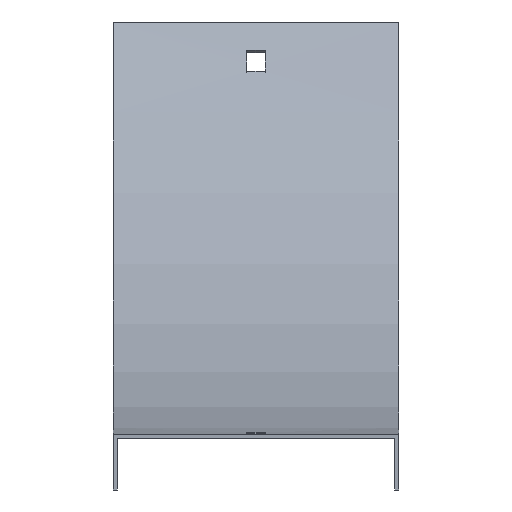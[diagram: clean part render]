
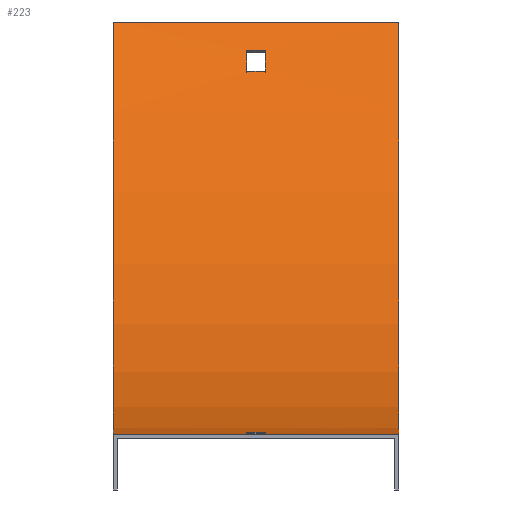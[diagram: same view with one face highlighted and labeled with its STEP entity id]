
A CAD part, top view. The second image highlights one B-rep face of the part: STEP entity #223.
In plain terms, the highlighted cylindrical face has radius 298.5 mm (diameter 597 mm), a partial arc.
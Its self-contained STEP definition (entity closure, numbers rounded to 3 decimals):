
#14 = CARTESIAN_POINT ( 'NONE',  ( 51.5, 149.25, -258.509 ) ) ;
#15 = CARTESIAN_POINT ( 'NONE',  ( 3.25, 138.978, -252.3 ) ) ;
#20 = EDGE_CURVE ( 'NONE', #143, #286, #440, .T. ) ;
#21 = LINE ( 'NONE', #217, #479 ) ;
#24 = CARTESIAN_POINT ( 'NONE',  ( -3.25, 298.5, 0. ) ) ;
#34 = VECTOR ( 'NONE', #267, 1000. ) ;
#36 = VERTEX_POINT ( 'NONE', #153 ) ;
#43 = EDGE_CURVE ( 'NONE', #36, #522, #274, .T. ) ;
#49 = DIRECTION ( 'NONE',  ( 0., 0., 1. ) ) ;
#56 = EDGE_CURVE ( 'NONE', #430, #363, #372, .T. ) ;
#59 = DIRECTION ( 'NONE',  ( 0., 0., 1. ) ) ;
#68 = CARTESIAN_POINT ( 'NONE',  ( 3.25, 298.5, 0. ) ) ;
#69 = CARTESIAN_POINT ( 'NONE',  ( 51.5, 0.241, -12. ) ) ;
#73 = LINE ( 'NONE', #468, #483 ) ;
#77 = VERTEX_POINT ( 'NONE', #311 ) ;
#80 = EDGE_CURVE ( 'NONE', #143, #477, #118, .T. ) ;
#88 = LINE ( 'NONE', #378, #228 ) ;
#96 = DIRECTION ( 'NONE',  ( -1., 0., 0. ) ) ;
#97 = CARTESIAN_POINT ( 'NONE',  ( 51.5, 149.25, -258.509 ) ) ;
#111 = ORIENTED_EDGE ( 'NONE', *, *, #383, .T. ) ;
#113 = DIRECTION ( 'NONE',  ( -1., 0., 0. ) ) ;
#114 = AXIS2_PLACEMENT_3D ( 'NONE', #439, #202, #207 ) ;
#118 = CIRCLE ( 'NONE', #525, 298.5 ) ;
#119 = DIRECTION ( 'NONE',  ( -1., 0., 0. ) ) ;
#121 = DIRECTION ( 'NONE',  ( 1., 0., 0. ) ) ;
#130 = AXIS2_PLACEMENT_3D ( 'NONE', #205, #353, #161 ) ;
#135 = AXIS2_PLACEMENT_3D ( 'NONE', #68, #226, #216 ) ;
#138 = ORIENTED_EDGE ( 'NONE', *, *, #142, .T. ) ;
#142 = EDGE_CURVE ( 'NONE', #484, #430, #303, .T. ) ;
#143 = VERTEX_POINT ( 'NONE', #14 ) ;
#153 = CARTESIAN_POINT ( 'NONE',  ( -3.25, 138.978, -252.3 ) ) ;
#161 = DIRECTION ( 'NONE',  ( 0., 1., 0. ) ) ;
#164 = CARTESIAN_POINT ( 'NONE',  ( -51.5, 149.25, -258.509 ) ) ;
#170 = CARTESIAN_POINT ( 'NONE',  ( 3.25, 0.74, -21. ) ) ;
#174 = DIRECTION ( 'NONE',  ( -1., 0., 0. ) ) ;
#178 = EDGE_CURVE ( 'NONE', #363, #393, #21, .T. ) ;
#191 = DIRECTION ( 'NONE',  ( -1., 0., 0. ) ) ;
#198 = ORIENTED_EDGE ( 'NONE', *, *, #277, .F. ) ;
#202 = DIRECTION ( 'NONE',  ( 1., 0., 0. ) ) ;
#205 = CARTESIAN_POINT ( 'NONE',  ( -3.25, 298.5, 0. ) ) ;
#207 = DIRECTION ( 'NONE',  ( 0., 0., 1. ) ) ;
#212 = CARTESIAN_POINT ( 'NONE',  ( 51.5, 298.5, 0. ) ) ;
#216 = DIRECTION ( 'NONE',  ( 0., 0., -1. ) ) ;
#217 = CARTESIAN_POINT ( 'NONE',  ( 51.5, 0.74, -21. ) ) ;
#223 = ADVANCED_FACE ( 'NONE', ( #289, #300, #341 ), #478, .F. ) ;
#226 = DIRECTION ( 'NONE',  ( -1., 0., 0. ) ) ;
#228 = VECTOR ( 'NONE', #330, 1000. ) ;
#240 = DIRECTION ( 'NONE',  ( -1., 0., 0. ) ) ;
#243 = ORIENTED_EDGE ( 'NONE', *, *, #422, .F. ) ;
#256 = ORIENTED_EDGE ( 'NONE', *, *, #565, .F. ) ;
#267 = DIRECTION ( 'NONE',  ( -1., 0., 0. ) ) ;
#272 = ORIENTED_EDGE ( 'NONE', *, *, #56, .T. ) ;
#274 = CIRCLE ( 'NONE', #130, 298.5 ) ;
#277 = EDGE_CURVE ( 'NONE', #561, #332, #310, .T. ) ;
#279 = ORIENTED_EDGE ( 'NONE', *, *, #486, .T. ) ;
#286 = VERTEX_POINT ( 'NONE', #164 ) ;
#288 = ORIENTED_EDGE ( 'NONE', *, *, #20, .T. ) ;
#289 = FACE_OUTER_BOUND ( 'NONE', #375, .T. ) ;
#293 = AXIS2_PLACEMENT_3D ( 'NONE', #24, #359, #59 ) ;
#300 = FACE_BOUND ( 'NONE', #513, .T. ) ;
#303 = LINE ( 'NONE', #69, #34 ) ;
#309 = ORIENTED_EDGE ( 'NONE', *, *, #399, .F. ) ;
#310 = CIRCLE ( 'NONE', #114, 298.5 ) ;
#311 = CARTESIAN_POINT ( 'NONE',  ( -51.5, 0., 0. ) ) ;
#323 = CARTESIAN_POINT ( 'NONE',  ( 51.5, 0., 0. ) ) ;
#325 = EDGE_LOOP ( 'NONE', ( #461, #243, #198, #256 ) ) ;
#330 = DIRECTION ( 'NONE',  ( 1., 0., 0. ) ) ;
#332 = VERTEX_POINT ( 'NONE', #15 ) ;
#336 = ORIENTED_EDGE ( 'NONE', *, *, #80, .F. ) ;
#341 = FACE_BOUND ( 'NONE', #325, .T. ) ;
#353 = DIRECTION ( 'NONE',  ( -1., 0., 0. ) ) ;
#359 = DIRECTION ( 'NONE',  ( 1., 0., 0. ) ) ;
#363 = VERTEX_POINT ( 'NONE', #549 ) ;
#372 = CIRCLE ( 'NONE', #293, 298.5 ) ;
#374 = CARTESIAN_POINT ( 'NONE',  ( 3.25, 0.241, -12. ) ) ;
#375 = EDGE_LOOP ( 'NONE', ( #279, #309, #336, #288 ) ) ;
#378 = CARTESIAN_POINT ( 'NONE',  ( 51.5, 131.433, -247.368 ) ) ;
#382 = VECTOR ( 'NONE', #96, 1000. ) ;
#383 = EDGE_CURVE ( 'NONE', #393, #484, #537, .T. ) ;
#385 = CARTESIAN_POINT ( 'NONE',  ( -3.25, 131.433, -247.368 ) ) ;
#387 = VECTOR ( 'NONE', #174, 1000. ) ;
#393 = VERTEX_POINT ( 'NONE', #170 ) ;
#399 = EDGE_CURVE ( 'NONE', #477, #77, #73, .T. ) ;
#411 = LINE ( 'NONE', #598, #387 ) ;
#422 = EDGE_CURVE ( 'NONE', #332, #36, #411, .T. ) ;
#427 = AXIS2_PLACEMENT_3D ( 'NONE', #482, #240, #431 ) ;
#430 = VERTEX_POINT ( 'NONE', #551 ) ;
#431 = DIRECTION ( 'NONE',  ( 0., 0., 1. ) ) ;
#437 = CIRCLE ( 'NONE', #575, 298.5 ) ;
#439 = CARTESIAN_POINT ( 'NONE',  ( 3.25, 298.5, 0. ) ) ;
#440 = LINE ( 'NONE', #97, #382 ) ;
#461 = ORIENTED_EDGE ( 'NONE', *, *, #43, .F. ) ;
#467 = ORIENTED_EDGE ( 'NONE', *, *, #178, .T. ) ;
#468 = CARTESIAN_POINT ( 'NONE',  ( 51.5, 0., 0. ) ) ;
#476 = CARTESIAN_POINT ( 'NONE',  ( 3.25, 131.433, -247.368 ) ) ;
#477 = VERTEX_POINT ( 'NONE', #323 ) ;
#478 = CYLINDRICAL_SURFACE ( 'NONE', #427, 298.5 ) ;
#479 = VECTOR ( 'NONE', #121, 1000. ) ;
#482 = CARTESIAN_POINT ( 'NONE',  ( 51.5, 298.5, 0. ) ) ;
#483 = VECTOR ( 'NONE', #119, 1000. ) ;
#484 = VERTEX_POINT ( 'NONE', #374 ) ;
#486 = EDGE_CURVE ( 'NONE', #286, #77, #437, .T. ) ;
#500 = DIRECTION ( 'NONE',  ( 0., 0., 1. ) ) ;
#513 = EDGE_LOOP ( 'NONE', ( #138, #272, #467, #111 ) ) ;
#522 = VERTEX_POINT ( 'NONE', #385 ) ;
#525 = AXIS2_PLACEMENT_3D ( 'NONE', #212, #113, #500 ) ;
#537 = CIRCLE ( 'NONE', #135, 298.5 ) ;
#549 = CARTESIAN_POINT ( 'NONE',  ( -3.25, 0.74, -21. ) ) ;
#551 = CARTESIAN_POINT ( 'NONE',  ( -3.25, 0.241, -12. ) ) ;
#561 = VERTEX_POINT ( 'NONE', #476 ) ;
#562 = CARTESIAN_POINT ( 'NONE',  ( -51.5, 298.5, 0. ) ) ;
#565 = EDGE_CURVE ( 'NONE', #522, #561, #88, .T. ) ;
#575 = AXIS2_PLACEMENT_3D ( 'NONE', #562, #191, #49 ) ;
#598 = CARTESIAN_POINT ( 'NONE',  ( 51.5, 138.978, -252.3 ) ) ;
